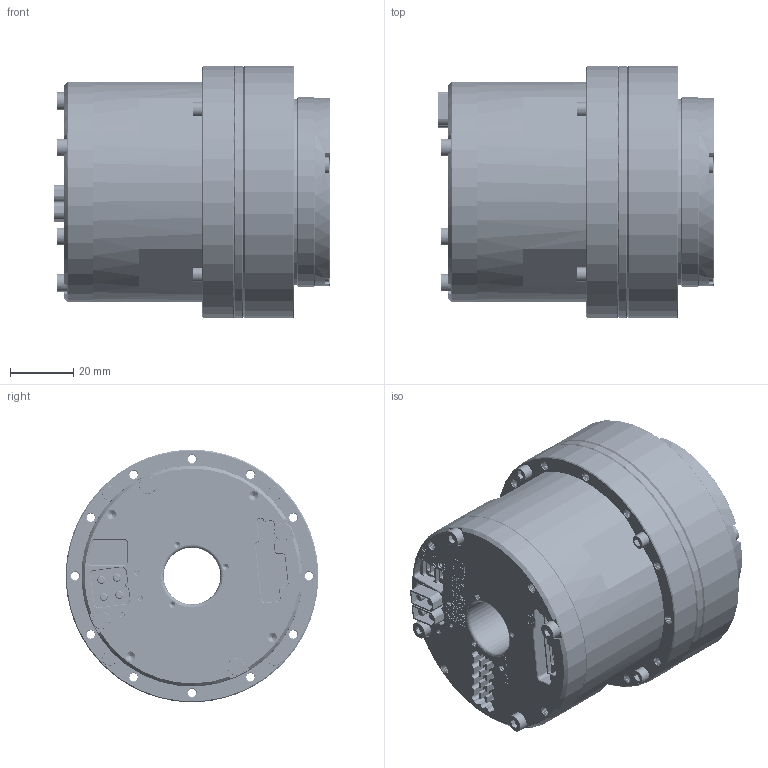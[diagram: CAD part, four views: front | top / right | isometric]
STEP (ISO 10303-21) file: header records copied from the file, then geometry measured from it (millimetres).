
FILE_DESCRIPTION (( 'STEP AP203' ), '1' );
FILE_NAME ('eRob80H｡ﾁ｡ﾁI-XX-18CX_V5_MC2C.BX.XX.step', '2024-04-11T01:20:27', ( 'Windows User' ), ( 'P R C' ), 'SwSTEP 2.0', 'SolidWorks 2021', '' );
FILE_SCHEMA (( 'CONFIG_CONTROL_DESIGN' ));
Length unit declared in the file: millimetre
Products named in the file (1): eRob80H××I-XX-18CX_V5_MC2C.BX.XX
Bounding box: 87.6 x 80 x 80 mm (x, y, z)
Volume: 315701.2 mm3; surface area: 46220.8 mm2
Topology: 1 solids, 1 shells, 4420 faces, 12162 edges, 7973 vertices
Faces by surface type: plane 1968, cylinder 1881, bspline 424, cone 111, torus 36
Entity records: 368768 total; most frequent: CARTESIAN_POINT 266840, ORIENTED_EDGE 24232, DIRECTION 17626, EDGE_CURVE 12116, VERTEX_POINT 7973, VECTOR 7080, LINE 7080, AXIS2_PLACEMENT_3D 5273
